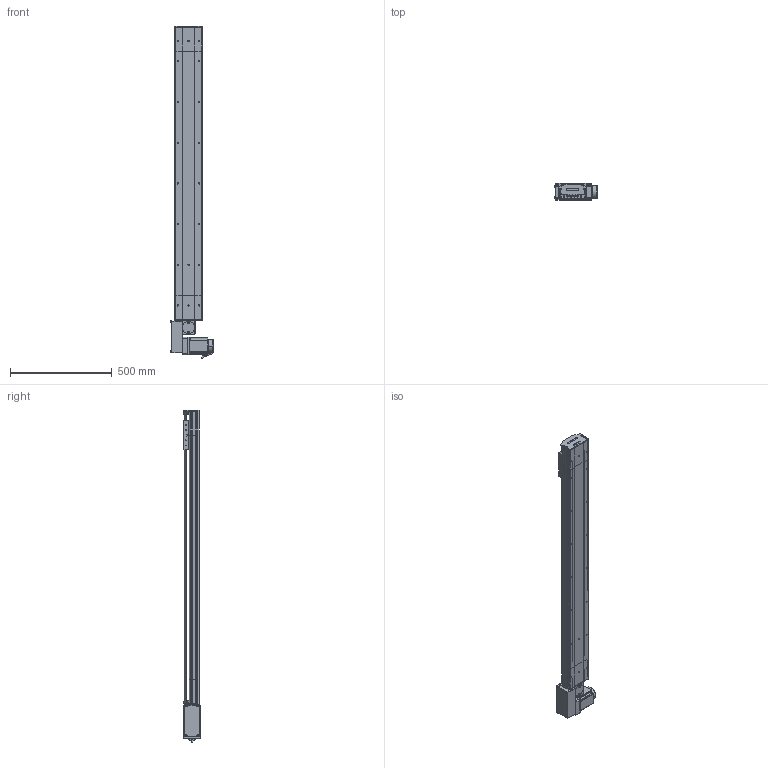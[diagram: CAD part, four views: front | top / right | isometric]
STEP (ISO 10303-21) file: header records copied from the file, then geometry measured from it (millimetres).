
FILE_DESCRIPTION (( 'STEP AP214' ), '1' );
FILE_NAME ('D14 TBH RH S1200.STEP', '2010-06-29T13:45:40', ( 'Conseil Régional Haute-Normandie' ), ( 'Conseil Régional Haute-Normandie' ), 'SwSTEP 2.0', 'SolidWorks 2010', '' );
FILE_SCHEMA (( 'AUTOMOTIVE_DESIGN' ));
Length unit declared in the file: millimetre
Products named in the file (39): plaque de  bout tail D14_Default; Chariot D14; D14 TB H RH_Default; couvercle D14_Default; Arbre+rail tail D14; tete d''axe haut D14; poulie tail_Default; vis M5 L8 90°_Default; vis M5 L16_Default; Couroie_Default; guide D14; chariot D14B_Default; poulie head_Default; corps 90BLDC100A-640; Cvis M5 L70_Default; Arbre+rail head D14; plaque de  bout head D14 RH_Default; Moteur motionking 90BLDC100A-640; couvercle D14 head_Default; couroie 2_Default; corp head D14_Default; codeur 90BLDC100-640; Cache_Default; Plaque racord D14_Default; Conecteur_Default; Conecteur2_Default; Vis M5 L16-2_Default; vis M5 L5_Default; renvoi RH_Default; Cache arbre_Default; avant 90BLDC100A-640; vis M5 L12_Default; corpl tail D14_Default; Tail D14B_Default; couvercle D14 course L1200_Default; Rail + couroie D14 Course 1200 ; corpl 1200_Default; D14 couroie L1200_Default; D14 TBH RH S1200
Assembly tree (68 placements, depth 4):
  D14 TBH RH S1200
    Tail D14B_Default
      tete d''axe haut D14
      vis M5 L16_Default  x2
      vis M5 L12_Default  x4
      vis M5 L8 90°_Default  x2
      Arbre+rail tail D14
      Couroie_Default
      couvercle D14_Default
      corpl tail D14_Default
      plaque de  bout tail D14_Default
      poulie tail_Default
    D14 couroie L1200_Default
      corpl 1200_Default
      Rail + couroie D14 Course 1200 
      couvercle D14 course L1200_Default
    chariot D14B_Default
      vis M5 L12_Default  x4
      guide D14  x2
      Chariot D14
    D14 TB H RH_Default
      vis M5 L12_Default  x12
      Cvis M5 L70_Default  x4
      renvoi RH_Default
      vis M5 L5_Default  x2
      Cache_Default  x2
      Vis M5 L16-2_Default  x4
      Moteur motionking 90BLDC100A-640
        codeur 90BLDC100-640
        corps 90BLDC100A-640
        Conecteur2_Default
        Conecteur_Default
        avant 90BLDC100A-640
      poulie head_Default
      plaque de  bout head D14 RH_Default
      Arbre+rail head D14
      couroie 2_Default
      corp head D14_Default
      Cache arbre_Default
      Plaque racord D14_Default
      couvercle D14 head_Default
Bounding box: 207.2 x 85.9 x 1632.45 mm (x, y, z)
Volume: 6696794.4 mm3; surface area: 2206761.9 mm2
Topology: 92 solids, 92 shells, 2629 faces, 6431 edges, 4146 vertices
Faces by surface type: plane 1589, cylinder 727, bspline 136, torus 89, cone 84, sphere 4
Entity records: 79172 total; most frequent: CARTESIAN_POINT 23545, ORIENTED_EDGE 9722, DIRECTION 9496, EDGE_CURVE 4861, LINE 3274, VECTOR 3274, VERTEX_POINT 3196, AXIS2_PLACEMENT_3D 3111
